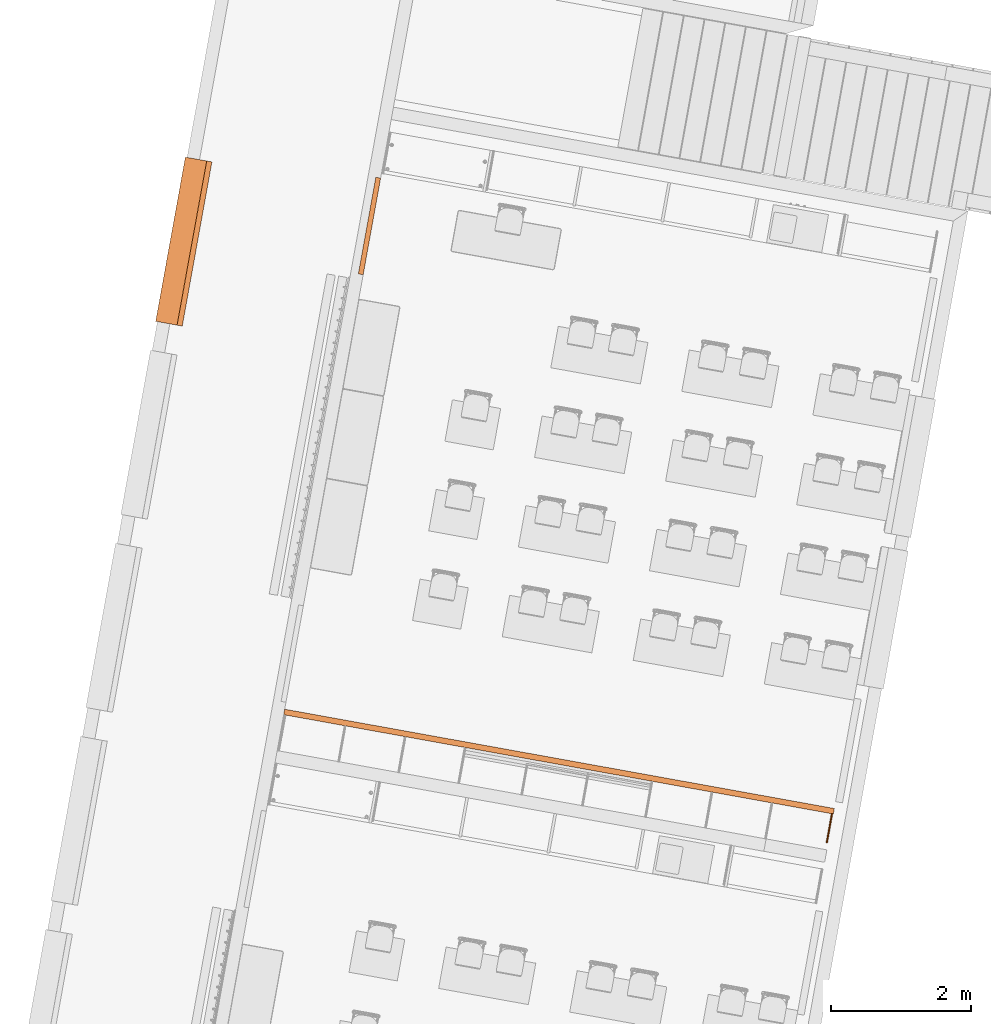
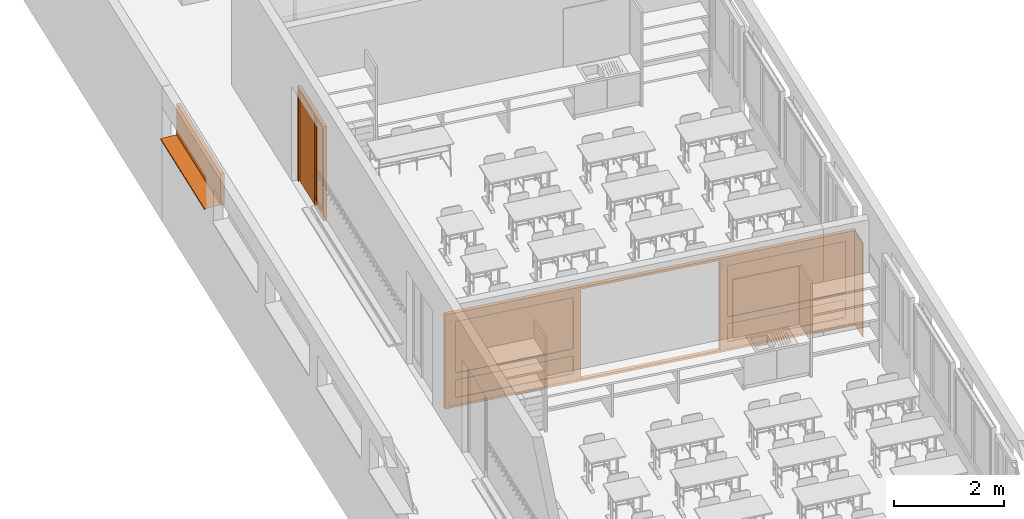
# One storey, part 28 of 79: 4 proxies.
"""IFC2X3 building model written with IfcOpenShell, lengths in metres."""

import ifcopenshell
import ifcopenshell.guid

model = None  # the IFC model being written
_history = None  # IfcOwnerHistory: only IFC2X3 demands one
_inside = {}  # id of a spatial element -> (the spatial element, [elements in it])
_under = {}  # id of a project, library or spatial element -> (it, [spatial elements below it])
_declared = {}  # id of a project -> (the project, [libraries it declares])
_typed = {}  # id of a type object -> (the type object, [elements of that type])
_made_of = {}  # id of a material, layer set ... -> (it, [elements and type objects made of it])


def new_model(schema):
    """Start an empty IFC model of exactly this schema.

    Asked for "IFC4X3", IfcOpenShell would pick the latest addendum, in which some entities
    have other attributes; the version numbers below select the first issue.
    IFC2X3 requires an IfcOwnerHistory on every rooted entity: one is made here for all.
    """
    global model, _history
    if schema == "IFC4X3":
        model = ifcopenshell.file(schema_version=(4, 3, 0, 0))
    else:
        model = ifcopenshell.file(schema=schema)
    _inside.clear()
    _under.clear()
    _declared.clear()
    _typed.clear()
    _made_of.clear()
    _history = None
    if model.schema == "IFC2X3":
        org = make("IfcOrganization", Name="unknown")
        user = make(
            "IfcPersonAndOrganization",
            ThePerson=make("IfcPerson", FamilyName="unknown"),
            TheOrganization=org,
        )
        app = make(
            "IfcApplication",
            ApplicationDeveloper=org,
            Version="unknown",
            ApplicationFullName="unknown",
            ApplicationIdentifier="unknown",
        )
        _history = make(
            "IfcOwnerHistory",
            OwningUser=user,
            OwningApplication=app,
            ChangeAction="ADDED",
            CreationDate=0,
        )
    return model


def make(cls, **values):
    """One entity of the class cls with the attributes given. An attribute that is None is left unset."""
    return model.create_entity(
        cls, **{name: value for name, value in values.items() if value is not None}
    )


def entity(cls, *values):
    """Any entity or typed value of the class cls, its attributes in the order of the schema. None: left unset."""
    e = model.create_entity(cls)
    for i, value in enumerate(values):
        if value is not None:
            e[i] = value
    return e


def rooted(cls, **values):
    """An entity with a GlobalId (a new one), such as an element, a storey or a relation."""
    return make(cls, GlobalId=ifcopenshell.guid.new(), OwnerHistory=_history, **values)


def si_unit(unit_type, name, prefix=None):
    """IfcSIUnit, for example si_unit("LENGTHUNIT", "METRE", prefix="MILLI")."""
    return make("IfcSIUnit", UnitType=unit_type, Prefix=prefix, Name=name)


def converted_unit(unit_type, name, factor, base, dimensions=None, offset=None):
    """IfcConversionBasedUnit, such as the inch: factor (a typed value) times the base unit."""
    return make(
        "IfcConversionBasedUnit"
        if offset is None
        else "IfcConversionBasedUnitWithOffset",
        ConversionOffset=offset,
        Dimensions=None
        if dimensions is None
        else entity("IfcDimensionalExponents", *dimensions),
        UnitType=unit_type,
        Name=name,
        ConversionFactor=make(
            "IfcMeasureWithUnit", ValueComponent=factor, UnitComponent=base
        ),
    )


def derived_unit(unit_type, elements):
    """IfcDerivedUnit: a product of units, each with its exponent."""
    return make(
        "IfcDerivedUnit",
        Elements=[
            make("IfcDerivedUnitElement", Unit=unit, Exponent=power)
            for unit, power in elements
        ],
        UnitType=unit_type,
    )


def money_unit(currency):
    """IfcMonetaryUnit."""
    return make("IfcMonetaryUnit", Currency=currency)


def assignment(units):
    """IfcUnitAssignment: the units of a project."""
    return None if units is None else make("IfcUnitAssignment", Units=units)


def point(xyz):
    """IfcCartesianPoint."""
    return None if xyz is None else make("IfcCartesianPoint", Coordinates=xyz)


def direction(xyz):
    """IfcDirection."""
    return None if xyz is None else make("IfcDirection", DirectionRatios=xyz)


def frame(location, z_axis=None, x_axis=None):
    """IfcAxis2Placement3D, a coordinate frame: its origin and axes. An axis left out is left unset."""
    return make(
        "IfcAxis2Placement3D",
        Location=point(location),
        Axis=direction(z_axis),
        RefDirection=direction(x_axis),
    )


def origin_with_axes():
    """The frame at (0, 0, 0) with the z axis (0, 0, 1) and the x axis (1, 0, 0) written out."""
    return frame((0.0, 0.0, 0.0), z_axis=(0.0, 0.0, 1.0), x_axis=(1.0, 0.0, 0.0))


def place(relative_to, where):
    """IfcLocalPlacement: puts the frame where relative to a parent placement (None: the world)."""
    return make(
        "IfcLocalPlacement", PlacementRelTo=relative_to, RelativePlacement=where
    )


def context(
    kind, dimensions, precision=None, world=None, true_north=None, identifier=None
):
    """IfcGeometricRepresentationContext, for example the 3D "Model" context."""
    return make(
        "IfcGeometricRepresentationContext",
        ContextIdentifier=identifier,
        ContextType=kind,
        CoordinateSpaceDimension=dimensions,
        Precision=precision,
        WorldCoordinateSystem=world,
        TrueNorth=true_north,
    )


def subcontext(parent, identifier, kind, view, scale=None):
    """IfcGeometricRepresentationSubContext, for example "Body" below "Model"."""
    return make(
        "IfcGeometricRepresentationSubContext",
        ContextIdentifier=identifier,
        ContextType=kind,
        ParentContext=parent,
        TargetScale=scale,
        TargetView=view,
    )


def project(units=None, contexts=None):
    """IfcProject with its units and contexts."""
    return rooted(
        "IfcProject",
        Name="project",
        RepresentationContexts=contexts,
        UnitsInContext=assignment(units),
    )


def spatial(cls, under=None, at=None, **own):
    """A site, building, storey or space (cls), placed at a placement, below another one or the project."""
    s = rooted(cls, ObjectPlacement=at, **own)
    if under is not None:
        _under.setdefault(under.id(), (under, []))[1].append(s)
    return s


def polyline(points):
    """IfcPolyline through the points."""
    return make("IfcPolyline", Points=[point(p) for p in points])


def outline(outer, holes=None, kind="AREA"):
    """IfcArbitraryClosedProfileDef: a profile drawn as a closed curve; with holes, ...WithVoids."""
    if holes is None:
        return make("IfcArbitraryClosedProfileDef", ProfileType=kind, OuterCurve=outer)
    return make(
        "IfcArbitraryProfileDefWithVoids",
        ProfileType=kind,
        OuterCurve=outer,
        InnerCurves=holes,
    )


def extrude(swept, where, along, depth):
    """IfcExtrudedAreaSolid: the profile swept, set in the frame where, extruded along a direction by depth."""
    return make(
        "IfcExtrudedAreaSolid",
        SweptArea=swept,
        Position=where,
        ExtrudedDirection=direction(along),
        Depth=depth,
    )


def faces_of(points, faces, orient=None, outer=None):
    """IfcFace entities. A face is a list of loops; a loop is a list of indices into points, from 0.

    orient and outer hold one flag for each loop. By default every Orientation is true, the
    first loop of a face is its IfcFaceOuterBound and the others are IfcFaceBound.
    """
    made = []
    for i, loops in enumerate(faces):
        bounds = []
        for j, loop in enumerate(loops):
            is_outer = j == 0 if outer is None else outer[i][j]
            bounds.append(
                make(
                    "IfcFaceOuterBound" if is_outer else "IfcFaceBound",
                    Bound=make("IfcPolyLoop", Polygon=[points[k] for k in loop]),
                    Orientation=True if orient is None else orient[i][j],
                )
            )
        made.append(make("IfcFace", Bounds=bounds))
    return made


def open_shell(faces, orient=None, outer=None):
    """The faces of one IfcOpenShell. surface_model builds it on its shared points."""
    return ("IfcOpenShell", faces, orient, outer)


def faceted_brep(points, faces, orient=None, outer=None, voids=None):
    """IfcFacetedBrep: a solid bounded by flat faces; with voids (closed shells), ...WithVoids."""
    shared = [point(p) for p in points]
    hull = make("IfcClosedShell", CfsFaces=faces_of(shared, faces, orient, outer))
    if voids is None:
        return make("IfcFacetedBrep", Outer=hull)
    return make(
        "IfcFacetedBrepWithVoids",
        Outer=hull,
        Voids=[
            make(cls, CfsFaces=faces_of(shared, fs, o, b)) for cls, fs, o, b in voids
        ],
    )


def surface_model(cls, points, shells):
    """IfcFaceBasedSurfaceModel or IfcShellBasedSurfaceModel (cls): surfaces that need not close."""
    shared = [point(p) for p in points]
    made = [make(c, CfsFaces=faces_of(shared, fs, o, b)) for c, fs, o, b in shells]
    if cls == "IfcFaceBasedSurfaceModel":
        return make(cls, FbsmFaces=made)
    return make(cls, SbsmBoundary=made)


def shape(context_of_items, identifier, shape_type, items):
    """IfcShapeRepresentation: the items that make up one representation, for example the "Body"."""
    return make(
        "IfcShapeRepresentation",
        ContextOfItems=context_of_items,
        RepresentationIdentifier=identifier,
        RepresentationType=shape_type,
        Items=items,
    )


def source(mapping_origin, context_of_items, identifier, shape_type, items):
    """IfcRepresentationMap: a shape defined once, which mapped items show again and again."""
    return make(
        "IfcRepresentationMap",
        MappingOrigin=mapping_origin,
        MappedRepresentation=shape(context_of_items, identifier, shape_type, items),
    )


def transform(
    local_origin,
    x_axis=None,
    y_axis=None,
    z_axis=None,
    scale=None,
    scale2=None,
    scale3=None,
    uniform=True,
):
    """IfcCartesianTransformationOperator3D, or its non-uniform kind. x_axis, y_axis, z_axis: its Axis1, 2, 3."""
    if uniform:
        return make(
            "IfcCartesianTransformationOperator3D",
            Axis1=direction(x_axis),
            Axis2=direction(y_axis),
            LocalOrigin=point(local_origin),
            Scale=scale,
            Axis3=direction(z_axis),
        )
    return make(
        "IfcCartesianTransformationOperator3DnonUniform",
        Axis1=direction(x_axis),
        Axis2=direction(y_axis),
        LocalOrigin=point(local_origin),
        Scale=scale,
        Axis3=direction(z_axis),
        Scale2=scale2,
        Scale3=scale3,
    )


def mapped(mapping_source, mapping_target):
    """IfcMappedItem: shows the shape of a source again, moved by a transform."""
    return make(
        "IfcMappedItem", MappingSource=mapping_source, MappingTarget=mapping_target
    )


def material(Name=None, Category=None):
    """IfcMaterial."""
    return make("IfcMaterial", Name=Name, Category=Category)


def made_of(thing, what):
    """Note that an element or type object is made of a material, layer set ...; save() writes the relation."""
    if what is not None:
        _made_of.setdefault(what.id(), (what, []))[1].append(thing)
    return thing


def type_object(cls, material=None, **own):
    """A type object (cls), such as IfcWallType, which elements share."""
    return made_of(rooted(cls, **own), material)


def element(
    cls,
    number,
    at=None,
    inside=None,
    cuts=None,
    type_object=None,
    material=None,
    context=None,
    identifier="Body",
    shape_type=None,
    held_by="IfcProductDefinitionShape",
    body=None,
    shapes=None,
    **own,
):
    """One element of the class cls, such as IfcWall. Its Tag is "e" and its number.

    at: its placement. inside: the storey or other place that contains it. cuts: it is an
    opening in that element (IfcRelVoidsElement). A single representation is given by context,
    identifier, shape_type and body (its items); several are given by shapes. held_by: the class
    of the entity that holds the representations. save() writes the other relations.
    """
    e = rooted(cls, Tag="e%d" % number, ObjectPlacement=at, **own)
    if body is not None:
        shapes = [shape(context, identifier, shape_type, body)]
    if shapes is not None:
        e.Representation = make(held_by, Representations=shapes)
    if inside is not None:
        _inside.setdefault(inside.id(), (inside, []))[1].append(e)
    if cuts is not None:
        rooted(
            "IfcRelVoidsElement", RelatingBuildingElement=cuts, RelatedOpeningElement=e
        )
    if type_object is not None:
        _typed.setdefault(type_object.id(), (type_object, []))[1].append(e)
    return made_of(e, material)


def aggregate(whole, parts):
    """IfcRelAggregates: a whole, such as a stair, and the parts it consists of."""
    return rooted("IfcRelAggregates", RelatingObject=whole, RelatedObjects=parts)


def save(model, path):
    """Write the relations noted so far, then the file.

    IfcRelAggregates (storeys below a building ...), IfcRelContainedInSpatialStructure (elements
    in a storey), IfcRelDefinesByType, IfcRelAssociatesMaterial and IfcRelDeclares: one each for
    every whole, place, type object, material and project.
    """
    for whole, parts in _under.values():
        aggregate(whole, parts)
    for where, things in _inside.values():
        rooted(
            "IfcRelContainedInSpatialStructure",
            RelatedElements=things,
            RelatingStructure=where,
        )
    for kind, things in _typed.values():
        rooted("IfcRelDefinesByType", RelatedObjects=things, RelatingType=kind)
    for what, things in _made_of.values():
        rooted("IfcRelAssociatesMaterial", RelatedObjects=things, RelatingMaterial=what)
    for by, libraries in _declared.values():
        rooted("IfcRelDeclares", RelatingContext=by, RelatedDefinitions=libraries)
    model.write(path)


model = new_model("IFC2X3")

# Units and contexts
model_context = context("Model", 3, precision=1e-05, world=origin_with_axes(), true_north=direction((0.0, 1.0)))
body_context = subcontext(model_context, "Body", "Model", "MODEL_VIEW")
ifc_project = project(units=[si_unit("LENGTHUNIT", "METRE"), si_unit("AREAUNIT", "SQUARE_METRE"), si_unit("VOLUMEUNIT", "CUBIC_METRE"), converted_unit("PLANEANGLEUNIT", "DEGREE", entity("IfcPlaneAngleMeasure", 0.0174532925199), si_unit("PLANEANGLEUNIT", "RADIAN"), dimensions=[0, 0, 0, 0, 0, 0, 0]), money_unit("CHF"), converted_unit("TIMEUNIT", "Year", entity("IfcTimeMeasure", 31556926.0), si_unit("TIMEUNIT", "SECOND"), dimensions=[0, 0, 1, 0, 0, 0, 0]), si_unit("MASSUNIT", "GRAM", prefix="KILO"), si_unit("THERMODYNAMICTEMPERATUREUNIT", "DEGREE_CELSIUS"), si_unit("LUMINOUSINTENSITYUNIT", "LUMEN"), si_unit("ENERGYUNIT", "JOULE", prefix="MEGA"), derived_unit("THERMALCONDUCTANCEUNIT", [(si_unit("POWERUNIT", "WATT"), 1), (si_unit("LENGTHUNIT", "METRE"), -1), (si_unit("THERMODYNAMICTEMPERATUREUNIT", "KELVIN"), -1)]), derived_unit("SPECIFICHEATCAPACITYUNIT", [(si_unit("ENERGYUNIT", "JOULE"), 1), (si_unit("MASSUNIT", "GRAM", prefix="KILO"), -1), (si_unit("THERMODYNAMICTEMPERATUREUNIT", "KELVIN"), -1)]), derived_unit("MASSDENSITYUNIT", [(si_unit("MASSUNIT", "GRAM", prefix="KILO"), 1), (si_unit("VOLUMEUNIT", "CUBIC_METRE"), -1)])], contexts=[model_context])

# Site, building, storey
site_placement = place(None, frame((0.0, 0.0, 0.0), z_axis=(0.0, 0.0, 1.0), x_axis=(-0.177771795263, -0.984071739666, 0.0)))
site = spatial("IfcSite", under=ifc_project, at=site_placement, Name="Site", CompositionType="ELEMENT")
building_placement = place(site_placement, origin_with_axes())
building = spatial("IfcBuilding", under=site, at=building_placement, Name="Bâtiment", CompositionType="ELEMENT")
storey_placement = place(building_placement, origin_with_axes())
storey = spatial("IfcBuildingStorey", under=building, at=storey_placement, Name="RDC", CompositionType="ELEMENT", Elevation=0.0)

# Proxies
ifc_material_1 = material(Name="Matériau de construction IFC")
building_element_proxy_type_1 = type_object("IfcBuildingElementProxyType", Name="porte-couliss-triple_JM2", PredefinedType="NOTDEFINED")
shared_shape_1 = source(origin_with_axes(), body_context, "Body", "SurfaceModel", [
    surface_model("IfcShellBasedSurfaceModel", [(7.92, -0.0799999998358, 0.05), (7.92, -0.0799999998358, 2.05), (7.92, 1.64206426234e-10, 2.05), (7.92, 1.64206426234e-10, 0.05), (7.97, -0.0799999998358, 2.05), (7.97, -0.0799999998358, 0.05), (7.97, 1.64206426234e-10, 2.05), (7.97, 1.64206426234e-10, 0.05)], [open_shell([[[0, 1, 2, 3]], [[4, 1, 0, 5]], [[6, 7, 3, 2]]])]),
    surface_model("IfcShellBasedSurfaceModel", [(7.97, -0.0799999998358, 0.0), (7.97, -0.0799999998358, 2.1), (7.97, 1.64206426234e-10, 2.1), (7.97, 1.64206426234e-10, 0.0)], [open_shell([[[0, 1, 2, 3]]])]),
    surface_model("IfcShellBasedSurfaceModel", [(0.05, -0.0799999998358, 0.05), (7.92, -0.0799999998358, 0.05), (7.92, 1.64206426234e-10, 0.05), (0.05, 1.64206426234e-10, 0.05), (7.92, -0.0799999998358, 0.0), (0.05, -0.0799999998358, 0.0), (7.92, 1.64206426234e-10, 0.0), (0.05, 1.64206426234e-10, 0.0)], [open_shell([[[0, 1, 2, 3]], [[4, 1, 0, 5]], [[6, 7, 3, 2]]])]),
    surface_model("IfcShellBasedSurfaceModel", [(7.97, -0.0799999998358, 0.0), (0.0, -0.0799999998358, 0.0), (0.0, 1.64206426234e-10, 0.0), (7.97, 1.64206426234e-10, 0.0)], [open_shell([[[0, 1, 2, 3]]])]),
    surface_model("IfcShellBasedSurfaceModel", [(7.97, -0.0799999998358, 0.0), (7.97, -0.0799999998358, 0.05), (7.92, -0.0799999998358, 0.05), (7.92, -0.0799999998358, 0.0)], [open_shell([[[0, 1, 2, 3]]])]),
    surface_model("IfcShellBasedSurfaceModel", [(7.97, 1.64206426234e-10, 0.0), (7.97, 1.64206426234e-10, 0.05), (7.92, 1.64206426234e-10, 0.05), (7.92, 1.64206426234e-10, 0.0)], [open_shell([[[0, 1, 2, 3]]])]),
    surface_model("IfcShellBasedSurfaceModel", [(0.05, -0.0799999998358, 0.0), (0.05, -0.0799999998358, 0.05), (0.0, -0.0799999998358, 0.05), (0.0, -0.0799999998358, 0.0)], [open_shell([[[0, 1, 2, 3]]])]),
    surface_model("IfcShellBasedSurfaceModel", [(0.05, 1.64206426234e-10, 0.0), (0.05, 1.64206426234e-10, 0.05), (0.0, 1.64206426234e-10, 0.05), (0.0, 1.64206426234e-10, 0.0)], [open_shell([[[0, 1, 2, 3]]])]),
    surface_model("IfcShellBasedSurfaceModel", [(0.05, -0.0799999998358, 2.05), (0.05, -0.0799999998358, 0.05), (0.05, 1.64206426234e-10, 0.05), (0.05, 1.64206426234e-10, 2.05), (0.0, -0.0799999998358, 0.05), (0.0, -0.0799999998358, 2.05), (0.0, 1.64206426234e-10, 0.05), (0.0, 1.64206426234e-10, 2.05)], [open_shell([[[0, 1, 2, 3]], [[4, 1, 0, 5]], [[6, 7, 3, 2]]])]),
    surface_model("IfcShellBasedSurfaceModel", [(0.0, -0.0799999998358, 0.0), (0.0, -0.0799999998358, 2.1), (0.0, 1.64206426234e-10, 2.1), (0.0, 1.64206426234e-10, 0.0)], [open_shell([[[0, 1, 2, 3]]])]),
    surface_model("IfcShellBasedSurfaceModel", [(7.92, -0.0799999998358, 2.05), (0.05, -0.0799999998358, 2.05), (0.05, 1.64206426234e-10, 2.05), (7.92, 1.64206426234e-10, 2.05), (0.05, -0.0799999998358, 2.1), (7.92, -0.0799999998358, 2.1), (0.05, 1.64206426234e-10, 2.1), (7.92, 1.64206426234e-10, 2.1)], [open_shell([[[0, 1, 2, 3]], [[4, 1, 0, 5]], [[6, 7, 3, 2]]])]),
    surface_model("IfcShellBasedSurfaceModel", [(7.97, -0.0799999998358, 2.1), (0.0, -0.0799999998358, 2.1), (0.0, 1.64206426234e-10, 2.1), (7.97, 1.64206426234e-10, 2.1)], [open_shell([[[0, 1, 2, 3]]])]),
    surface_model("IfcShellBasedSurfaceModel", [(7.97, -0.0799999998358, 2.05), (7.97, -0.0799999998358, 2.1), (7.92, -0.0799999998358, 2.1), (7.92, -0.0799999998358, 2.05)], [open_shell([[[0, 1, 2, 3]]])]),
    surface_model("IfcShellBasedSurfaceModel", [(7.97, 1.64206426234e-10, 2.05), (7.97, 1.64206426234e-10, 2.1), (7.92, 1.64206426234e-10, 2.1), (7.92, 1.64206426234e-10, 2.05)], [open_shell([[[0, 1, 2, 3]]])]),
    surface_model("IfcShellBasedSurfaceModel", [(0.05, -0.0799999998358, 2.05), (0.05, -0.0799999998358, 2.1), (0.0, -0.0799999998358, 2.1), (0.0, -0.0799999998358, 2.05)], [open_shell([[[0, 1, 2, 3]]])]),
    surface_model("IfcShellBasedSurfaceModel", [(0.05, 1.64206426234e-10, 2.05), (0.05, 1.64206426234e-10, 2.1), (0.0, 1.64206426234e-10, 2.1), (0.0, 1.64206426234e-10, 2.05)], [open_shell([[[0, 1, 2, 3]]])]),
    surface_model("IfcShellBasedSurfaceModel", [(7.77, -0.0744999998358, 0.2), (7.77, -0.0744999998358, 1.9), (7.77, -0.00449999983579, 1.9), (7.77, -0.00449999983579, 0.2), (7.92, -0.0744999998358, 1.9), (7.92, -0.0744999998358, 0.2), (7.92, -0.00449999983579, 1.9), (7.92, -0.00449999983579, 0.2)], [open_shell([[[0, 1, 2, 3]], [[4, 1, 0, 5]], [[6, 7, 3, 2]]])]),
    surface_model("IfcShellBasedSurfaceModel", [(7.92, -0.0744999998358, 0.05), (7.92, -0.0744999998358, 2.05), (7.92, -0.00449999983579, 2.05), (7.92, -0.00449999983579, 0.05)], [open_shell([[[0, 1, 2, 3]]])]),
    surface_model("IfcShellBasedSurfaceModel", [(5.48, -0.0744999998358, 0.2), (7.77, -0.0744999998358, 0.2), (7.77, -0.00449999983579, 0.2), (5.48, -0.00449999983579, 0.2), (7.77, -0.0744999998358, 0.05), (5.48, -0.0744999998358, 0.05), (7.77, -0.00449999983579, 0.05), (5.48, -0.00449999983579, 0.05)], [open_shell([[[0, 1, 2, 3]], [[4, 1, 0, 5]], [[6, 7, 3, 2]]])]),
    surface_model("IfcShellBasedSurfaceModel", [(7.92, -0.0744999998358, 0.05), (5.33, -0.0744999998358, 0.05), (5.33, -0.00449999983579, 0.05), (7.92, -0.00449999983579, 0.05)], [open_shell([[[0, 1, 2, 3]]])]),
    surface_model("IfcShellBasedSurfaceModel", [(7.92, -0.0744999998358, 0.05), (7.92, -0.0744999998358, 0.2), (7.77, -0.0744999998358, 0.2), (7.77, -0.0744999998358, 0.05)], [open_shell([[[0, 1, 2, 3]]])]),
    surface_model("IfcShellBasedSurfaceModel", [(7.92, -0.00449999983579, 0.05), (7.92, -0.00449999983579, 0.2), (7.77, -0.00449999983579, 0.2), (7.77, -0.00449999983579, 0.05)], [open_shell([[[0, 1, 2, 3]]])]),
    surface_model("IfcShellBasedSurfaceModel", [(5.48, -0.0744999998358, 0.05), (5.48, -0.0744999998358, 0.2), (5.33, -0.0744999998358, 0.2), (5.33, -0.0744999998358, 0.05)], [open_shell([[[0, 1, 2, 3]]])]),
    surface_model("IfcShellBasedSurfaceModel", [(5.48, -0.00449999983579, 0.05), (5.48, -0.00449999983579, 0.2), (5.33, -0.00449999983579, 0.2), (5.33, -0.00449999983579, 0.05)], [open_shell([[[0, 1, 2, 3]]])]),
    surface_model("IfcShellBasedSurfaceModel", [(5.48, -0.0744999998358, 1.9), (5.48, -0.0744999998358, 0.2), (5.48, -0.00449999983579, 0.2), (5.48, -0.00449999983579, 1.9), (5.33, -0.0744999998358, 0.2), (5.33, -0.0744999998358, 1.9), (5.33, -0.00449999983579, 0.2), (5.33, -0.00449999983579, 1.9)], [open_shell([[[0, 1, 2, 3]], [[4, 1, 0, 5]], [[6, 7, 3, 2]]])]),
    surface_model("IfcShellBasedSurfaceModel", [(5.33, -0.0744999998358, 0.05), (5.33, -0.0744999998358, 2.05), (5.33, -0.00449999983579, 2.05), (5.33, -0.00449999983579, 0.05)], [open_shell([[[0, 1, 2, 3]]])]),
    surface_model("IfcShellBasedSurfaceModel", [(7.77, -0.0744999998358, 1.9), (5.48, -0.0744999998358, 1.9), (5.48, -0.00449999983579, 1.9), (7.77, -0.00449999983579, 1.9), (5.48, -0.0744999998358, 2.05), (7.77, -0.0744999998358, 2.05), (5.48, -0.00449999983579, 2.05), (7.77, -0.00449999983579, 2.05)], [open_shell([[[0, 1, 2, 3]], [[4, 1, 0, 5]], [[6, 7, 3, 2]]])]),
    surface_model("IfcShellBasedSurfaceModel", [(7.92, -0.0744999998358, 2.05), (5.33, -0.0744999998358, 2.05), (5.33, -0.00449999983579, 2.05), (7.92, -0.00449999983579, 2.05)], [open_shell([[[0, 1, 2, 3]]])]),
    surface_model("IfcShellBasedSurfaceModel", [(7.92, -0.0744999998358, 1.9), (7.92, -0.0744999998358, 2.05), (7.77, -0.0744999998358, 2.05), (7.77, -0.0744999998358, 1.9)], [open_shell([[[0, 1, 2, 3]]])]),
    surface_model("IfcShellBasedSurfaceModel", [(7.92, -0.00449999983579, 1.9), (7.92, -0.00449999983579, 2.05), (7.77, -0.00449999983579, 2.05), (7.77, -0.00449999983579, 1.9)], [open_shell([[[0, 1, 2, 3]]])]),
    surface_model("IfcShellBasedSurfaceModel", [(5.48, -0.0744999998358, 1.9), (5.48, -0.0744999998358, 2.05), (5.33, -0.0744999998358, 2.05), (5.33, -0.0744999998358, 1.9)], [open_shell([[[0, 1, 2, 3]]])]),
    surface_model("IfcShellBasedSurfaceModel", [(5.48, -0.00449999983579, 1.9), (5.48, -0.00449999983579, 2.05), (5.33, -0.00449999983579, 2.05), (5.33, -0.00449999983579, 1.9)], [open_shell([[[0, 1, 2, 3]]])]),
    faceted_brep([(5.48, -0.0194999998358, 0.2), (7.77, -0.0194999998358, 0.2), (7.77, -0.0594999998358, 0.2), (5.48, -0.0594999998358, 0.2), (5.48, -0.0194999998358, 0.6), (7.77, -0.0194999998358, 0.6), (7.77, -0.0594999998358, 0.6), (5.48, -0.0594999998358, 0.6)], [[[0, 1, 2, 3]], [[1, 0, 4, 5]], [[2, 1, 5, 6]], [[3, 2, 6, 7]], [[0, 3, 7, 4]], [[5, 4, 7, 6]]]),
    faceted_brep([(5.48, -0.00449999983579, 0.6), (7.77, -0.00449999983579, 0.6), (7.77, -0.0744999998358, 0.6), (5.48, -0.0744999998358, 0.6), (5.48, -0.00449999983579, 0.75), (7.77, -0.00449999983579, 0.75), (7.77, -0.0744999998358, 0.75), (5.48, -0.0744999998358, 0.75)], [[[0, 1, 2, 3]], [[1, 0, 4, 5]], [[2, 1, 5, 6]], [[3, 2, 6, 7]], [[0, 3, 7, 4]], [[5, 4, 7, 6]]]),
    faceted_brep([(5.48, -0.0194999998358, 0.75), (7.77, -0.0194999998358, 0.75), (7.77, -0.0594999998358, 0.75), (5.48, -0.0594999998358, 0.75), (5.48, -0.0194999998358, 1.9), (7.77, -0.0194999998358, 1.9), (7.77, -0.0594999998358, 1.9), (5.48, -0.0594999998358, 1.9)], [[[0, 1, 2, 3]], [[1, 0, 4, 5]], [[2, 1, 5, 6]], [[3, 2, 6, 7]], [[0, 3, 7, 4]], [[5, 4, 7, 6]]]),
    surface_model("IfcShellBasedSurfaceModel", [(2.49, -0.0744999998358, 0.2), (2.49, -0.0744999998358, 1.9), (2.49, -0.00449999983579, 1.9), (2.49, -0.00449999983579, 0.2), (2.64, -0.0744999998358, 1.9), (2.64, -0.0744999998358, 0.2), (2.64, -0.00449999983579, 1.9), (2.64, -0.00449999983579, 0.2)], [open_shell([[[0, 1, 2, 3]], [[4, 1, 0, 5]], [[6, 7, 3, 2]]])]),
    surface_model("IfcShellBasedSurfaceModel", [(2.64, -0.0744999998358, 0.05), (2.64, -0.0744999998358, 2.05), (2.64, -0.00449999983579, 2.05), (2.64, -0.00449999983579, 0.05)], [open_shell([[[0, 1, 2, 3]]])]),
    surface_model("IfcShellBasedSurfaceModel", [(0.2, -0.0744999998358, 0.2), (2.49, -0.0744999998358, 0.2), (2.49, -0.00449999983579, 0.2), (0.2, -0.00449999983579, 0.2), (2.49, -0.0744999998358, 0.05), (0.2, -0.0744999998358, 0.05), (2.49, -0.00449999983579, 0.05), (0.2, -0.00449999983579, 0.05)], [open_shell([[[0, 1, 2, 3]], [[4, 1, 0, 5]], [[6, 7, 3, 2]]])]),
    surface_model("IfcShellBasedSurfaceModel", [(2.64, -0.0744999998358, 0.05), (0.05, -0.0744999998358, 0.05), (0.05, -0.00449999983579, 0.05), (2.64, -0.00449999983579, 0.05)], [open_shell([[[0, 1, 2, 3]]])]),
    surface_model("IfcShellBasedSurfaceModel", [(2.64, -0.0744999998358, 0.05), (2.64, -0.0744999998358, 0.2), (2.49, -0.0744999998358, 0.2), (2.49, -0.0744999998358, 0.05)], [open_shell([[[0, 1, 2, 3]]])]),
    surface_model("IfcShellBasedSurfaceModel", [(2.64, -0.00449999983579, 0.05), (2.64, -0.00449999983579, 0.2), (2.49, -0.00449999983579, 0.2), (2.49, -0.00449999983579, 0.05)], [open_shell([[[0, 1, 2, 3]]])]),
    surface_model("IfcShellBasedSurfaceModel", [(0.2, -0.0744999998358, 0.05), (0.2, -0.0744999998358, 0.2), (0.05, -0.0744999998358, 0.2), (0.05, -0.0744999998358, 0.05)], [open_shell([[[0, 1, 2, 3]]])]),
    surface_model("IfcShellBasedSurfaceModel", [(0.2, -0.00449999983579, 0.05), (0.2, -0.00449999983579, 0.2), (0.05, -0.00449999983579, 0.2), (0.05, -0.00449999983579, 0.05)], [open_shell([[[0, 1, 2, 3]]])]),
    surface_model("IfcShellBasedSurfaceModel", [(0.2, -0.0744999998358, 1.9), (0.2, -0.0744999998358, 0.2), (0.2, -0.00449999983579, 0.2), (0.2, -0.00449999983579, 1.9), (0.05, -0.0744999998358, 0.2), (0.05, -0.0744999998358, 1.9), (0.05, -0.00449999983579, 0.2), (0.05, -0.00449999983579, 1.9)], [open_shell([[[0, 1, 2, 3]], [[4, 1, 0, 5]], [[6, 7, 3, 2]]])]),
    surface_model("IfcShellBasedSurfaceModel", [(0.05, -0.0744999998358, 0.05), (0.05, -0.0744999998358, 2.05), (0.05, -0.00449999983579, 2.05), (0.05, -0.00449999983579, 0.05)], [open_shell([[[0, 1, 2, 3]]])]),
    surface_model("IfcShellBasedSurfaceModel", [(2.49, -0.0744999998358, 1.9), (0.2, -0.0744999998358, 1.9), (0.2, -0.00449999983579, 1.9), (2.49, -0.00449999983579, 1.9), (0.2, -0.0744999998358, 2.05), (2.49, -0.0744999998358, 2.05), (0.2, -0.00449999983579, 2.05), (2.49, -0.00449999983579, 2.05)], [open_shell([[[0, 1, 2, 3]], [[4, 1, 0, 5]], [[6, 7, 3, 2]]])]),
    surface_model("IfcShellBasedSurfaceModel", [(2.64, -0.0744999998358, 2.05), (0.05, -0.0744999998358, 2.05), (0.05, -0.00449999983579, 2.05), (2.64, -0.00449999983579, 2.05)], [open_shell([[[0, 1, 2, 3]]])]),
    surface_model("IfcShellBasedSurfaceModel", [(2.64, -0.0744999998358, 1.9), (2.64, -0.0744999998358, 2.05), (2.49, -0.0744999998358, 2.05), (2.49, -0.0744999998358, 1.9)], [open_shell([[[0, 1, 2, 3]]])]),
    surface_model("IfcShellBasedSurfaceModel", [(2.64, -0.00449999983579, 1.9), (2.64, -0.00449999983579, 2.05), (2.49, -0.00449999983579, 2.05), (2.49, -0.00449999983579, 1.9)], [open_shell([[[0, 1, 2, 3]]])]),
    surface_model("IfcShellBasedSurfaceModel", [(0.2, -0.0744999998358, 1.9), (0.2, -0.0744999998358, 2.05), (0.05, -0.0744999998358, 2.05), (0.05, -0.0744999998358, 1.9)], [open_shell([[[0, 1, 2, 3]]])]),
    surface_model("IfcShellBasedSurfaceModel", [(0.2, -0.00449999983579, 1.9), (0.2, -0.00449999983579, 2.05), (0.05, -0.00449999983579, 2.05), (0.05, -0.00449999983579, 1.9)], [open_shell([[[0, 1, 2, 3]]])]),
    faceted_brep([(0.2, -0.0194999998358, 0.2), (2.49, -0.0194999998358, 0.2), (2.49, -0.0594999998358, 0.2), (0.2, -0.0594999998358, 0.2), (0.2, -0.0194999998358, 0.6), (2.49, -0.0194999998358, 0.6), (2.49, -0.0594999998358, 0.6), (0.2, -0.0594999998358, 0.6)], [[[0, 1, 2, 3]], [[1, 0, 4, 5]], [[2, 1, 5, 6]], [[3, 2, 6, 7]], [[0, 3, 7, 4]], [[5, 4, 7, 6]]]),
    faceted_brep([(0.2, -0.00449999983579, 0.6), (2.49, -0.00449999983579, 0.6), (2.49, -0.0744999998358, 0.6), (0.2, -0.0744999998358, 0.6), (0.2, -0.00449999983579, 0.75), (2.49, -0.00449999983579, 0.75), (2.49, -0.0744999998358, 0.75), (0.2, -0.0744999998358, 0.75)], [[[0, 1, 2, 3]], [[1, 0, 4, 5]], [[2, 1, 5, 6]], [[3, 2, 6, 7]], [[0, 3, 7, 4]], [[5, 4, 7, 6]]]),
    faceted_brep([(0.2, -0.0194999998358, 0.75), (2.49, -0.0194999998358, 0.75), (2.49, -0.0594999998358, 0.75), (0.2, -0.0594999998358, 0.75), (0.2, -0.0194999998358, 1.9), (2.49, -0.0194999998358, 1.9), (2.49, -0.0594999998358, 1.9), (0.2, -0.0594999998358, 1.9)], [[[0, 1, 2, 3]], [[1, 0, 4, 5]], [[2, 1, 5, 6]], [[3, 2, 6, 7]], [[0, 3, 7, 4]], [[5, 4, 7, 6]]]),
])
proxy_1_placement = place(storey_placement, frame((154.919841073, -156.44715293, 0.0), z_axis=(0.0, 0.0, 1.0), x_axis=(0.0, 1.0, 0.0)))
element("IfcBuildingElementProxy", 1, at=proxy_1_placement, inside=storey, type_object=building_element_proxy_type_1, material=ifc_material_1, Name="coulissant-classe", context=body_context, shape_type="MappedRepresentation", body=[
    mapped(shared_shape_1, transform((0.0, 0.0, 0.0))),
])
ifc_material_2 = material(Name="_panneau mélaminé")
building_element_proxy_type_2 = type_object("IfcBuildingElementProxyType", Name="_panneau mélaminé 19", PredefinedType="NOTDEFINED")
proxy_2_placement = place(storey_placement, frame((155.41984114, -148.506152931, 0.0), z_axis=(0.0, 0.0, 1.0), x_axis=(-1.0, 0.0, 0.0)))
element("IfcBuildingElementProxy", 2, at=proxy_2_placement, inside=storey, type_object=building_element_proxy_type_2, material=ifc_material_2, Name="cloison pl-classe", context=body_context, shape_type="SweptSolid", body=[
    extrude(outline(polyline([(0.0, -0.019), (0.420000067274, -0.019), (0.420000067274, 0.0), (0.0, 0.0), (0.0, -0.019)])), origin_with_axes(), (0.0, 0.0, 1.0), 2.1),
])
building_element_proxy_type_3 = type_object("IfcBuildingElementProxyType", Name="Porte avec tierce vitrée côté 2 21", PredefinedType="NOTDEFINED")
shared_shape_2 = source(origin_with_axes(), body_context, "Body", "SurfaceModel", [
    faceted_brep([(1.4, 0.17999893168, 0.0), (1.4, 0.10999893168, 0.0), (1.35, 0.10999893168, 0.0), (1.35, 0.17999893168, 0.0), (1.4, 0.17999893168, 2.05), (1.4, 0.10999893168, 2.05), (1.35, 0.10999893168, 2.05), (1.35, 0.10999893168, 0.2), (1.35, 0.17999893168, 0.2), (1.35, 0.17999893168, 2.05)], [[[0, 1, 2, 3]], [[4, 5, 1, 0]], [[1, 5, 6, 7, 2]], [[3, 2, 7, 8]], [[0, 3, 8, 9, 4]], [[9, 6, 5, 4]], [[8, 7, 6, 9]]]),
    faceted_brep([(0.91, 0.13999893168, 0.0), (0.91, 0.10999893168, 0.0), (0.91, 0.10999893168, 2.05), (0.91, 0.13999893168, 2.05), (0.93, 0.13999893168, 0.0), (0.93, 0.17999893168, 0.0), (0.96, 0.17999893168, 0.0), (0.96, 0.10999893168, 0.0), (0.96, 0.10999893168, 0.2), (0.96, 0.10999893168, 2.05), (0.93, 0.13999893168, 2.05), (0.96, 0.17999893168, 2.05), (0.93, 0.17999893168, 2.05), (0.96, 0.17999893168, 0.2)], [[[0, 1, 2, 3]], [[4, 5, 6, 7, 1, 0]], [[7, 8, 9, 2, 1]], [[10, 3, 2, 9, 11, 12]], [[10, 4, 0, 3]], [[12, 5, 4, 10]], [[12, 11, 13, 6, 5]], [[6, 13, 8, 7]], [[13, 11, 9, 8]]]),
    faceted_brep([(1.35, 0.17999893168, 0.2), (1.35, 0.10999893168, 0.2), (1.35, 0.10999893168, 0.0), (1.35, 0.17999893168, 0.0), (0.96, 0.17999893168, 0.2), (0.96, 0.10999893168, 0.2), (0.96, 0.10999893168, 0.0), (0.96, 0.17999893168, 0.0)], [[[0, 1, 2, 3]], [[4, 5, 1, 0]], [[1, 5, 6, 2]], [[3, 2, 6, 7]], [[0, 3, 7, 4]], [[7, 6, 5, 4]]]),
    faceted_brep([(0.03, 0.13999893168, 2.05), (0.03, 0.17999893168, 2.05), (0.0, 0.17999893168, 2.05), (0.0, 0.10999893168, 2.05), (0.05, 0.10999893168, 2.05), (0.05, 0.13999893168, 2.05), (0.03, 0.13999893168, 0.0), (0.03, 0.17999893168, 0.0), (0.0, 0.17999893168, 0.0), (0.0, 0.10999893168, 0.0), (0.05, 0.10999893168, 0.0), (0.05, 0.13999893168, 0.0)], [[[0, 1, 2, 3, 4, 5]], [[0, 6, 7, 1]], [[7, 8, 2, 1]], [[2, 8, 9, 3]], [[3, 9, 10, 4]], [[5, 4, 10, 11]], [[5, 11, 6, 0]], [[6, 11, 10, 9, 8, 7]]]),
    faceted_brep([(0.93, 0.17999893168, 2.07), (0.03, 0.17999893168, 2.07), (0.03, 0.17999893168, 2.05), (0.0, 0.17999893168, 2.05), (0.0, 0.17999893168, 2.1), (1.4, 0.17999893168, 2.1), (1.4, 0.17999893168, 2.05), (1.35, 0.17999893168, 2.05), (0.96, 0.17999893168, 2.05), (0.93, 0.17999893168, 2.05), (0.93, 0.13999893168, 2.07), (0.03, 0.13999893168, 2.07), (0.03, 0.13999893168, 2.05), (0.05, 0.13999893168, 2.05), (0.05, 0.10999893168, 2.05), (0.0, 0.10999893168, 2.05), (0.0, 0.10999893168, 2.1), (1.4, 0.10999893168, 2.1), (1.4, 0.10999893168, 2.05), (1.35, 0.10999893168, 2.05), (0.96, 0.10999893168, 2.05), (0.93, 0.13999893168, 2.05), (0.91, 0.10999893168, 2.05)], [[[0, 1, 2, 3, 4, 5, 6, 7, 8, 9]], [[0, 10, 11, 1]], [[1, 11, 12, 2]], [[12, 13, 14, 15, 3, 2]], [[4, 3, 15, 16]], [[5, 4, 16, 17]], [[6, 5, 17, 18]], [[7, 6, 18, 19]], [[8, 7, 19, 20]], [[21, 9, 8, 20, 22, 14, 13]], [[9, 21, 10, 0]], [[12, 11, 10, 21, 13]], [[14, 22, 20, 19, 18, 17, 16, 15]]]),
    faceted_brep([(0.03, 0.17999893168, 0.0), (0.93, 0.17999893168, 0.0), (0.93, 0.13999893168, 0.0), (0.03, 0.13999893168, 0.0), (0.03, 0.17999893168, 2.07), (0.93, 0.17999893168, 2.07), (0.93, 0.13999893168, 2.07), (0.03, 0.13999893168, 2.07)], [[[0, 1, 2, 3]], [[0, 4, 5, 1]], [[1, 5, 6, 2]], [[3, 2, 6, 7]], [[4, 0, 3, 7]], [[5, 4, 7, 6]]]),
    surface_model("IfcShellBasedSurfaceModel", [(1.35, 0.14499893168, 0.2), (0.96, 0.14499893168, 0.2), (0.96, 0.14499893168, 2.05), (1.35, 0.14499893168, 2.05)], [open_shell([[[0, 1, 2, 3]]])]),
    surface_model("IfcShellBasedSurfaceModel", [(1.35, 0.13499893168, 0.2), (1.35, 0.13499893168, 2.05), (0.96, 0.13499893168, 2.05), (0.96, 0.13499893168, 0.2)], [open_shell([[[0, 1, 2, 3]]])]),
])
proxy_3_placement = place(storey_placement, frame((147.219841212, -156.627149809, 0.0), z_axis=(0.0, 0.0, 1.0), x_axis=(1.0, -6.24383615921e-08, 0.0)))
element("IfcBuildingElementProxy", 3, at=proxy_3_placement, inside=storey, type_object=building_element_proxy_type_3, material=ifc_material_1, Name="7", context=body_context, shape_type="MappedRepresentation", body=[
    mapped(shared_shape_2, transform((0.0, 0.0, 0.0))),
])
building_element_proxy_type_4 = type_object("IfcBuildingElementProxyType", Name="Fenêtre variable 21", PredefinedType="NOTDEFINED")
shared_shape_3 = source(origin_with_axes(), body_context, "Body", "SurfaceModel", [
    surface_model("IfcShellBasedSurfaceModel", [(0.0, 0.284, 0.02), (0.0, 0.284, 0.01), (2.38, 0.284, 0.01), (2.38, 0.284, 0.02), (0.0, -0.025, -0.00087719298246), (2.38, -0.025, -0.00087719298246), (0.0, -0.025, -0.0308771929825), (2.38, -0.025, -0.0308771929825), (0.0, -0.0125, -0.0183771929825), (2.38, -0.0125, -0.0183771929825)], [open_shell([[[0, 1, 2, 3]], [[1, 4, 5, 2]], [[4, 6, 7, 5]], [[6, 8, 9, 7]]])]),
    faceted_brep([(0.075, 0.285, 0.625), (0.075, 0.36, 0.625), (0.0, 0.36, 0.625), (0.0, 0.285, 0.625), (0.075, 0.285, 0.075), (0.075, 0.36, 0.075), (0.0, 0.36, 0.075), (0.0, 0.285, 0.075)], [[[0, 1, 2, 3]], [[4, 5, 1, 0]], [[1, 5, 6, 2]], [[3, 2, 6, 7]], [[0, 3, 7, 4]], [[7, 6, 5, 4]]]),
    faceted_brep([(2.305, 0.285, 0.075), (2.305, 0.36, 0.075), (2.38, 0.36, 0.075), (2.38, 0.285, 0.075), (2.305, 0.285, 0.625), (2.305, 0.36, 0.625), (2.38, 0.36, 0.625), (2.38, 0.285, 0.625)], [[[0, 1, 2, 3]], [[4, 5, 1, 0]], [[1, 5, 6, 2]], [[3, 2, 6, 7]], [[0, 3, 7, 4]], [[7, 6, 5, 4]]]),
    faceted_brep([(0.075, 0.285, 0.075), (0.075, 0.36, 0.075), (0.0, 0.36, 0.075), (0.0, 0.285, 0.075), (2.305, 0.285, 0.075), (2.305, 0.36, 0.075), (2.38, 0.36, 0.075), (2.38, 0.36, 0.0), (0.0, 0.36, 0.0), (0.0, 0.285, 0.0), (2.38, 0.285, 0.0), (2.38, 0.285, 0.075)], [[[0, 1, 2, 3]], [[4, 5, 1, 0]], [[1, 5, 6, 7, 8, 2]], [[3, 2, 8, 9]], [[0, 3, 9, 10, 11, 4]], [[11, 6, 5, 4]], [[10, 7, 6, 11]], [[9, 8, 7, 10]]]),
    faceted_brep([(2.305, 0.285, 0.625), (2.305, 0.36, 0.625), (2.38, 0.36, 0.625), (2.38, 0.285, 0.625), (0.075, 0.285, 0.625), (0.075, 0.36, 0.625), (0.0, 0.36, 0.625), (0.0, 0.36, 0.7), (2.38, 0.36, 0.7), (2.38, 0.285, 0.7), (0.0, 0.285, 0.7), (0.0, 0.285, 0.625)], [[[0, 1, 2, 3]], [[4, 5, 1, 0]], [[1, 5, 6, 7, 8, 2]], [[3, 2, 8, 9]], [[0, 3, 9, 10, 11, 4]], [[11, 6, 5, 4]], [[10, 7, 6, 11]], [[9, 8, 7, 10]]]),
    surface_model("IfcShellBasedSurfaceModel", [(0.075, 0.285, 0.075), (2.305, 0.285, 0.075), (2.305, 0.285, 0.625), (0.075, 0.285, 0.625)], [open_shell([[[0, 1, 2, 3]]])]),
    surface_model("IfcShellBasedSurfaceModel", [(0.075, 0.305, 0.075), (0.075, 0.305, 0.625), (2.305, 0.305, 0.625), (2.305, 0.305, 0.075)], [open_shell([[[0, 1, 2, 3]]])]),
])
proxy_4_placement = place(storey_placement, frame((147.419841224, -159.217107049, 1.7), z_axis=(0.0, 0.0, 1.0), x_axis=(1.0, 0.0, 0.0)))
element("IfcBuildingElementProxy", 4, at=proxy_4_placement, inside=storey, type_object=building_element_proxy_type_4, material=ifc_material_1, Name="Fen couloir", context=body_context, shape_type="MappedRepresentation", body=[
    mapped(shared_shape_3, transform((0.0, 0.0, 0.0))),
])

save(model, "model.ifc")
